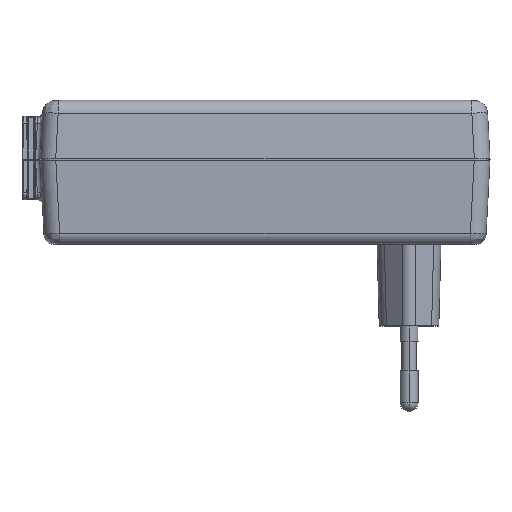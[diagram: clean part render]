
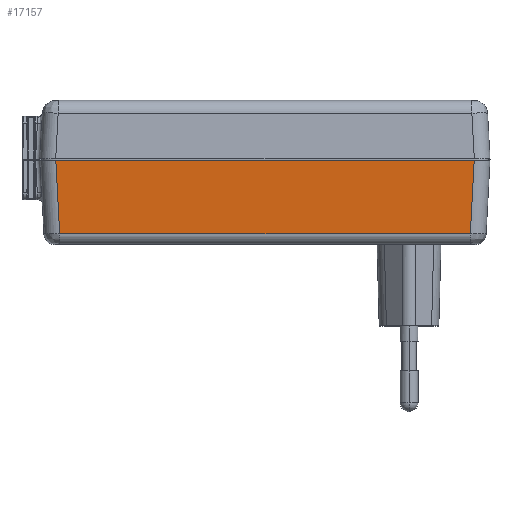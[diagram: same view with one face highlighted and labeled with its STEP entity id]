
A CAD part, top view. The second image highlights one B-rep face of the part: STEP entity #17157.
In plain terms, the highlighted planar face has unit normal (0, -0.052, 0.999).
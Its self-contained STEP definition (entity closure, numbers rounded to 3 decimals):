
#254=DIRECTION('',(1.,0.,0.));
#255=VECTOR('',#254,91.266);
#256=CARTESIAN_POINT('',(-45.633,-16.631,23.628));
#257=LINE('',#256,#255);
#445=CARTESIAN_POINT('',(46.483,-0.4,24.479));
#447=DIRECTION('',(-1.,0.,0.));
#448=VECTOR('',#447,92.967);
#449=CARTESIAN_POINT('',(46.483,-0.4,24.479));
#450=LINE('',#449,#448);
#6205=DIRECTION('',(-0.052,-0.997,-0.052));
#6206=VECTOR('',#6205,16.275);
#6207=CARTESIAN_POINT('',(46.483,-0.4,
24.479));
#6208=LINE('',#6207,#6206);
#6209=DIRECTION('',(-0.052,0.997,0.052));
#6210=VECTOR('',#6209,16.275);
#6211=CARTESIAN_POINT('',(-45.633,-16.631,
23.628));
#6212=LINE('',#6211,#6210);
#7157=CARTESIAN_POINT('',(45.633,-16.631,23.628));
#7158=VERTEX_POINT('',#7157);
#7159=CARTESIAN_POINT('',(-45.633,-16.631,
23.628));
#7160=VERTEX_POINT('',#7159);
#7202=VERTEX_POINT('',#445);
#7203=CARTESIAN_POINT('',(-46.484,-0.4,
24.479));
#7204=VERTEX_POINT('',#7203);
#17145=CARTESIAN_POINT('',(0.,-8.515,
24.054));
#17146=DIRECTION('',(0.,-0.052,0.999));
#17147=DIRECTION('',(1.,0.,0.));
#17148=AXIS2_PLACEMENT_3D('',#17145,#17146,#17147);
#17149=PLANE('',#17148);
#17150=ORIENTED_EDGE('',*,*,#8927,.F.);
#17152=ORIENTED_EDGE('',*,*,#17151,.T.);
#17153=ORIENTED_EDGE('',*,*,#8757,.F.);
#17154=ORIENTED_EDGE('',*,*,#17138,.T.);
#17155=EDGE_LOOP('',(#17150,#17152,#17153,#17154));
#17156=FACE_OUTER_BOUND('',#17155,.F.);
#17157=ADVANCED_FACE('',(#17156),#17149,.T.);
#8757=EDGE_CURVE('',#7160,#7158,#257,.T.);
#8927=EDGE_CURVE('',#7202,#7204,#450,.T.);
#17138=EDGE_CURVE('',#7160,#7204,#6212,.T.);
#17151=EDGE_CURVE('',#7202,#7158,#6208,.T.);
